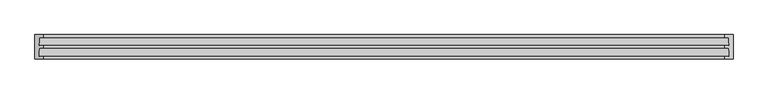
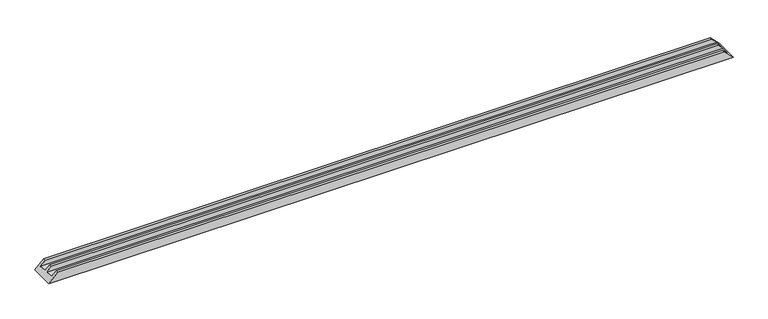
"""IFC4 building model written with IfcOpenShell, lengths in millimetres: proxy geometry, Weiku - Montante - Caixilho triplo 02.2.01.003 : Weiku - Montante - Caixilho triplo 02.2.01.003."""

from ifc_helpers import new_model, si_unit, origin, place, context, project, spatial, faceted_brep, source, transform, mapped, element, save


def generic_models_f79aa595(model_context):
    return source(origin(), model_context, "Body", "Brep", [
        faceted_brep([(-1971.0, 15.0, 26.0), (-1945.0, 15.0, 52.0), (1945.0, 15.0, 52.0), (1971.0, 15.0, 26.0), (-1973.2229744, 62.0, 23.7770256), (1973.2229744, 62.0, 23.7770256), (-1945.0, 62.0, 52.0), (1945.0, 62.0, 52.0), (-1945.0, 77.0, 52.0), (1945.0, 77.0, 52.0), (-1997.0, 139.0, 0.0), (1997.0, 139.0, 0.0), (1997.0, 0.0, 0.0), (-1997.0, 0.0, 0.0), (1945.0, 0.0, 52.0), (-1945.0, 0.0, 52.0), (-1971.0, 77.0, 26.0), (-1973.2229744, 124.0, 23.7770256), (-1945.0, 124.0, 52.0), (-1945.0, 139.0, 52.0), (1945.0, 139.0, 52.0), (1945.0, 124.0, 52.0), (1973.2229744, 124.0, 23.7770256), (1971.0, 77.0, 26.0)], [[[0, 1, 2, 3]], [[4, 0, 3, 5]], [[6, 4, 5, 7]], [[8, 6, 7, 9]], [[10, 11, 12, 13]], [[13, 12, 14, 15]], [[1, 15, 14, 2]], [[1, 0, 4, 6, 8, 16, 17, 18, 19, 10, 13, 15]], [[3, 2, 14, 12, 11, 20, 21, 22, 23, 9, 7, 5]], [[16, 8, 9, 23]], [[17, 16, 23, 22]], [[18, 17, 22, 21]], [[19, 18, 21, 20]], [[11, 10, 19, 20]]]),
    ])


if __name__ == "__main__":
    model = new_model("IFC4")
    model_context = context("Model", 3, world=origin())
    ifc_project = project(units=[si_unit("LENGTHUNIT", "METRE", prefix="MILLI")], contexts=[model_context])
    site = spatial("IfcSite", under=ifc_project)
    building = spatial("IfcBuilding", under=site)
    placement = place(None, origin())
    generic_models_shape = generic_models_f79aa595(model_context)
    element("IfcBuildingElementProxy", 1, Name="Weiku - Montante - Caixilho triplo 02.2.01.003 : Weiku - Montante - Caixilho triplo 02.2.01.003", ObjectType="Weiku - Montante - Caixilho triplo 02.2.01.003 : Weiku - Montante - Caixilho triplo 02.2.01.003", at=placement, inside=building, context=model_context, shape_type="MappedRepresentation", body=[
        mapped(generic_models_shape, transform((0.0, 0.0, 0.0), x_axis=(1.0, 0.0, 0.0), y_axis=(0.0, 1.0, 0.0), z_axis=(0.0, 0.0, 1.0))),
    ])
    save(model, "model.ifc")
